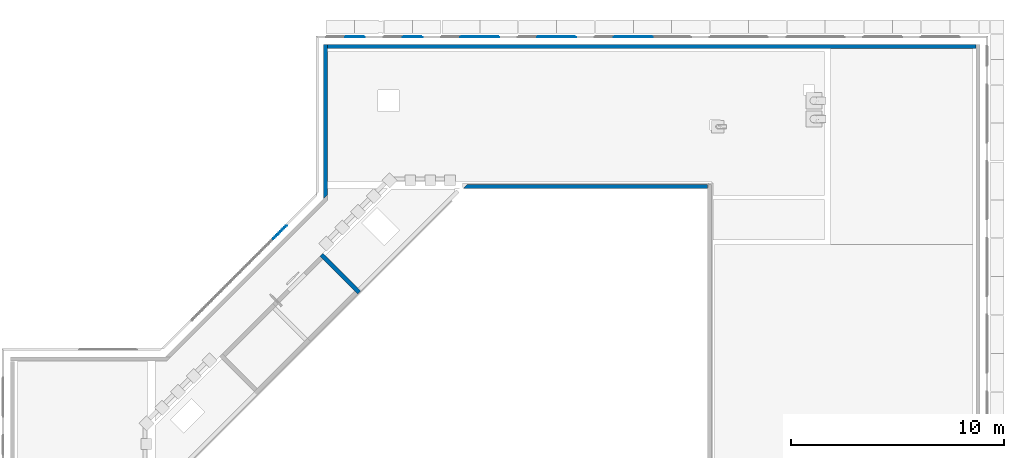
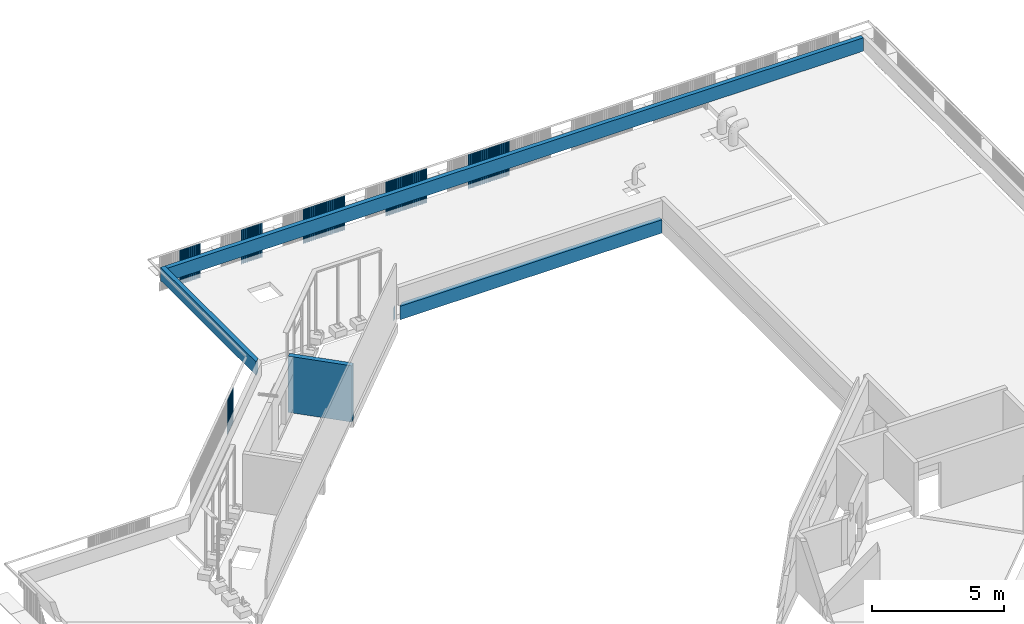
# One storey, part 14 of 37: 13 walls.
"""IFC4X3_ADD2 building model written with IfcOpenShell, lengths in millimetres."""

from ifc_helpers import new_model, si_unit, direction, frame, frame_2d, origin_with_axes, origin_2d_with_axis, place, context, subcontext, project, spatial, polyline, rectangle, outline, extrude, source, transform, mapped, material, type_object, type_shapes, element, save


model = new_model("IFC4X3_ADD2")

# Units and contexts
model_context = context("Model", 3, precision=1e-05, world=origin_with_axes(), true_north=direction((0.0, 1.0)))
body_context = subcontext(model_context, "Body", "Model", "MODEL_VIEW")
ifc_project = project(units=[si_unit("LENGTHUNIT", "METRE", prefix="MILLI"), si_unit("AREAUNIT", "SQUARE_METRE"), si_unit("VOLUMEUNIT", "CUBIC_METRE"), si_unit("PLANEANGLEUNIT", "RADIAN"), si_unit("TIMEUNIT", "SECOND"), si_unit("MASSUNIT", "GRAM")], contexts=[model_context])

# Site, building, storey
site_placement = place(None, origin_with_axes())
site = spatial("IfcSite", under=ifc_project, at=site_placement, Name="Site", CompositionType="ELEMENT")
building_placement = place(site_placement, origin_with_axes())
building = spatial("IfcBuilding", under=site, at=building_placement, Name="IFC Building Story")
storey_placement = place(building_placement, frame((0.0, 0.0, 14400.0), z_axis=(0.0, 0.0, 1.0), x_axis=(1.0, 0.0, 0.0)))
storey = spatial("IfcBuildingStorey", under=building, at=storey_placement, Name="040", Elevation=14400.0)

# Walls
ifc_material_1 = material(Name="BB_Beton_Bestaand")
wall_type_1 = type_object("IfcWallType", Name="BB_Beton_Bestaand 200", PredefinedType="NOTDEFINED", material=ifc_material_1)
wall_1_placement = place(storey_placement, origin_with_axes())
element("IfcWall", 1, at=wall_1_placement, inside=storey, type_object=wall_type_1, Name="Basic Wall:BB_XX_Wand uit beton, 200 mm", ObjectType="Basic Wall:BB_XX_Wand uit beton, 200 mm", PredefinedType="SOLIDWALL", context=body_context, shape_type="SweptSolid", body=[
    extrude(rectangle(XDim=2499.999999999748, YDim=199.9999999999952, at=frame_2d((0.0, 0.0), x_axis=(-0.7071067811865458, 0.7071067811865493))), frame((-29905.83388024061, 34622.2361107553, -200.0), z_axis=(0.0, 0.0, 1.0), x_axis=(1.0, 0.0, 0.0)), (0.0, 0.0, 1.0), 2600.0),
])
wall_type_2 = type_object("IfcWallType", Name="BB_Beton_Bestaand 190", PredefinedType="NOTDEFINED", material=ifc_material_1)
wall_2_placement = place(storey_placement, origin_with_axes())
element("IfcWall", 2, at=wall_2_placement, inside=storey, type_object=wall_type_2, Name="Basic Wall:BB_XX_Wand uit beton, 190 mm", ObjectType="Basic Wall:BB_XX_Wand uit beton, 190 mm", PredefinedType="SOLIDWALL", context=body_context, shape_type="SweptSolid", body=[
    extrude(outline(polyline([(95.0, 3572.824855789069), (95.0, -3477.824855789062), (-95.0, -3667.824855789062), (-95.0, 3572.824855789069), (95.0, 3572.824855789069)])), frame((-30600.0, 41807.17514421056, -200.0), z_axis=(0.0, 0.0, 1.0), x_axis=(1.0, 0.0, 0.0)), (0.0, 0.0, 1.0), 619.999999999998),
])
wall_3_placement = place(storey_placement, origin_with_axes())
element("IfcWall", 3, at=wall_3_placement, inside=storey, type_object=wall_type_2, Name="Basic Wall:BB_XX_Wand uit beton, 190 mm", ObjectType="Basic Wall:BB_XX_Wand uit beton, 190 mm", PredefinedType="SOLIDWALL", context=body_context, shape_type="SweptSolid", body=[
    extrude(rectangle(XDim=30410.0000000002, YDim=189.9999999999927, at=origin_2d_with_axis()), frame((-15299.9999999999, 45285.0, -200.0), z_axis=(0.0, 0.0, 1.0), x_axis=(1.0, 0.0, 0.0)), (0.0, 0.0, 1.0), 619.999999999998),
])
wall_type_3 = type_object("IfcWallType", Name="Basic Wall_BB_XX_Wand uit beton_ 200 mm3", PredefinedType="NOTDEFINED")
shared_shape = source(origin_with_axes(), body_context, "Body", "SweptSolid", [
    extrude(outline(polyline([(-6803.318907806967, -83.5685424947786), (-6803.318907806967, 116.4314575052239), (4656.984130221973, 116.4314575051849), (4474.826842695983, -65.7258300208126), (4474.826842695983, -83.56854249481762), (-6803.318907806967, -83.5685424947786)])), frame((6803.318907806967, -16.43145750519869, 0.0), z_axis=(0.0, 0.0, 1.0), x_axis=(1.0, 0.0, 0.0)), (0.0, 0.0, 1.0), 620.0),
    extrude(outline(polyline([(100.476153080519, 100.0), (-99.52384691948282, -100.0), (-100.4761530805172, -100.0), (99.52384691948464, 100.0), (100.476153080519, 100.0)])), frame((11643.6219035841, 2.046363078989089e-12, 0.0), z_axis=(0.0, 0.0, 1.0), x_axis=(1.0, 0.0, 0.0)), (0.0, 0.0, 1.0), 620.0),
])
type_shapes(wall_type_3, [shared_shape])
wall_4_placement = place(storey_placement, frame((-12695.0040658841, 38704.9959341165, -200.0), z_axis=(0.0, 0.0, 1.0), x_axis=(-1.0, 0.0, 0.0)))
element("IfcWall", 4, at=wall_4_placement, inside=storey, type_object=wall_type_3, material=ifc_material_1, Name="Basic Wall:BB_XX_Wand uit beton, 200 mm", ObjectType="Basic Wall:BB_XX_Wand uit beton, 200 mm", PredefinedType="SOLIDWALL", context=body_context, shape_type="MappedRepresentation", body=[
    mapped(shared_shape, transform((0.0, 0.0, 0.0))),
])
ifc_material_2 = material(Name="BB_Metaal_Aluminium_Puntprofiel")
wall_type_4 = type_object("IfcWallType", Name="BB_Metaal_Aluminium_Puntprofiel 1", PredefinedType="NOTDEFINED", material=ifc_material_2)
wall_5_placement = place(storey_placement, origin_with_axes())
element("IfcWall", 5, at=wall_5_placement, inside=storey, type_object=wall_type_4, Name="BB_07.10_Gevelbekleding_PuntProfiel, 900 mm, vol_GMO:900 x 1600 mm", ObjectType="BB_07.10_Gevelbekleding_PuntProfiel, 900 mm, vol_GMO:900 x 1600 mm", PredefinedType="NOTDEFINED", context=body_context, shape_type="SweptSolid", body=[
    extrude(outline(polyline([(349.0000000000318, -10.06027913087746), (371.0000000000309, -10.06027913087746), (405.0000000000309, 23.93972086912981), (439.0000000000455, -10.06027913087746), (460.9999999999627, -10.06027913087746), (461.4142135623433, -11.06027913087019), (438.5857864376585, -11.06027913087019), (405.0000000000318, 22.52550730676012), (371.4142135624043, -11.06027913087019), (348.5857864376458, -11.06027913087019), (315.0000000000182, 22.52550730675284), (281.4142135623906, -11.06027913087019), (258.5857864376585, -11.06027913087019), (225.0000000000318, 22.52550730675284), (191.4142135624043, -11.06027913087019), (168.5857864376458, -11.06027913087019), (135.0000000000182, 22.52550730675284), (101.4142135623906, -11.06027913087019), (78.58578643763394, -11.06027913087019), (45.00000000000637, 22.52550730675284), (11.4142135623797, -11.06027913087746), (-11.41421356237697, -11.06027913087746), (-45.00000000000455, 22.52550730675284), (-78.58578643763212, -11.06027913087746), (-101.414213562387, -11.06027913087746), (-135.0000000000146, 22.52550730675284), (-168.5857864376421, -11.06027913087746), (-191.4142135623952, -11.06027913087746), (-225.0000000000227, 22.52550730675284), (-258.5857864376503, -11.06027913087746), (-281.4142135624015, -11.06027913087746), (-315.0000000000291, 22.52550730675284), (-348.5857864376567, -11.06027913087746), (-371.4142135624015, -11.06027913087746), (-405.00000000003, 22.52550730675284), (-438.5857864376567, -11.06027913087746), (-461.4142135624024, -11.06027913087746), (-461.0000000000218, -10.06027913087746), (-439.00000000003, -10.06027913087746), (-405.00000000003, 23.93972086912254), (-371.0000000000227, -10.06027913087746), (-349.00000000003, -10.06027913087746), (-315.0000000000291, 23.93972086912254), (-281.0000000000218, -10.06027913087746), (-259.0000000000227, -10.06027913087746), (-225.0000000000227, 23.93972086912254), (-191.0000000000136, -10.06027913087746), (-169.0000000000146, -10.06027913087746), (-135.0000000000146, 23.93972086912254), (-101.0000000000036, -10.06027913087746), (-79.00000000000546, -10.06027913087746), (-45.00000000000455, 23.93972086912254), (-10.99999999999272, -10.06027913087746), (11.00000000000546, -10.06027913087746), (45.00000000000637, 23.93972086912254), (79.0000000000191, -10.06027913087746), (101.0000000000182, -10.06027913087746), (135.0000000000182, 23.93972086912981), (169.0000000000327, -10.06027913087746), (191.0000000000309, -10.06027913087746), (225.0000000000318, 23.93972086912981), (259.0000000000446, -10.06027913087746), (281.0000000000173, -10.06027913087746), (315.0000000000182, 23.93972086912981), (349.0000000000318, -10.06027913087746)])), frame((-29214.99999999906, 45726.06027913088, -960.0), z_axis=(0.0, 0.0, 1.0), x_axis=(1.0, 0.0, 0.0)), (0.0, 0.0, 1.0), 1600.0),
])
wall_6_placement = place(storey_placement, origin_with_axes())
element("IfcWall", 6, at=wall_6_placement, inside=storey, type_object=wall_type_4, Name="BB_07.10_Gevelbekleding_PuntProfiel, 900 mm, vol_GMO:900 x 1600 mm", ObjectType="BB_07.10_Gevelbekleding_PuntProfiel, 900 mm, vol_GMO:900 x 1600 mm", PredefinedType="NOTDEFINED", context=body_context, shape_type="SweptSolid", body=[
    extrude(outline(polyline([(349.0000000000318, -10.06027913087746), (371.0000000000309, -10.06027913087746), (405.0000000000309, 23.93972086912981), (439.0000000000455, -10.06027913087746), (460.9999999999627, -10.06027913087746), (461.4142135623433, -11.06027913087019), (438.5857864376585, -11.06027913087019), (405.0000000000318, 22.52550730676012), (371.4142135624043, -11.06027913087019), (348.5857864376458, -11.06027913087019), (315.0000000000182, 22.52550730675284), (281.4142135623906, -11.06027913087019), (258.5857864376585, -11.06027913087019), (225.0000000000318, 22.52550730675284), (191.4142135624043, -11.06027913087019), (168.5857864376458, -11.06027913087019), (135.0000000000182, 22.52550730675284), (101.4142135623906, -11.06027913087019), (78.58578643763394, -11.06027913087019), (45.00000000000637, 22.52550730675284), (11.4142135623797, -11.06027913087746), (-11.41421356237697, -11.06027913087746), (-45.00000000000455, 22.52550730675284), (-78.58578643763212, -11.06027913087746), (-101.414213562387, -11.06027913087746), (-135.0000000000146, 22.52550730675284), (-168.5857864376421, -11.06027913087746), (-191.4142135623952, -11.06027913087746), (-225.0000000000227, 22.52550730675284), (-258.5857864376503, -11.06027913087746), (-281.4142135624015, -11.06027913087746), (-315.0000000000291, 22.52550730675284), (-348.5857864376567, -11.06027913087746), (-371.4142135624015, -11.06027913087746), (-405.00000000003, 22.52550730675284), (-438.5857864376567, -11.06027913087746), (-461.4142135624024, -11.06027913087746), (-461.0000000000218, -10.06027913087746), (-439.00000000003, -10.06027913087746), (-405.00000000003, 23.93972086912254), (-371.0000000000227, -10.06027913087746), (-349.00000000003, -10.06027913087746), (-315.0000000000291, 23.93972086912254), (-281.0000000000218, -10.06027913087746), (-259.0000000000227, -10.06027913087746), (-225.0000000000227, 23.93972086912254), (-191.0000000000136, -10.06027913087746), (-169.0000000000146, -10.06027913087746), (-135.0000000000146, 23.93972086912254), (-101.0000000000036, -10.06027913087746), (-79.00000000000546, -10.06027913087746), (-45.00000000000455, 23.93972086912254), (-10.99999999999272, -10.06027913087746), (11.00000000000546, -10.06027913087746), (45.00000000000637, 23.93972086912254), (79.0000000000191, -10.06027913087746), (101.0000000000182, -10.06027913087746), (135.0000000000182, 23.93972086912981), (169.0000000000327, -10.06027913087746), (191.0000000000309, -10.06027913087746), (225.0000000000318, 23.93972086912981), (259.0000000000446, -10.06027913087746), (281.0000000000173, -10.06027913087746), (315.0000000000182, 23.93972086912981), (349.0000000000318, -10.06027913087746)])), frame((-26514.99999999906, 45726.06027913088, -960.0), z_axis=(0.0, 0.0, 1.0), x_axis=(1.0, 0.0, 0.0)), (0.0, 0.0, 1.0), 1600.0),
])
wall_7_placement = place(storey_placement, origin_with_axes())
element("IfcWall", 7, at=wall_7_placement, inside=storey, type_object=wall_type_4, Name="BB_07.10_Gevelbekleding_PuntProfiel, 900 mm, vol_GMO:900 x 1600 mm", ObjectType="BB_07.10_Gevelbekleding_PuntProfiel, 900 mm, vol_GMO:900 x 1600 mm", PredefinedType="NOTDEFINED", context=body_context, shape_type="SweptSolid", body=[
    extrude(outline(polyline([(349.0000000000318, -10.06027913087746), (371.0000000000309, -10.06027913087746), (405.0000000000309, 23.93972086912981), (439.0000000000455, -10.06027913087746), (460.9999999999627, -10.06027913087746), (461.4142135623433, -11.06027913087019), (438.5857864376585, -11.06027913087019), (405.0000000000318, 22.52550730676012), (371.4142135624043, -11.06027913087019), (348.5857864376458, -11.06027913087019), (315.0000000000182, 22.52550730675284), (281.4142135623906, -11.06027913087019), (258.5857864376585, -11.06027913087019), (225.0000000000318, 22.52550730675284), (191.4142135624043, -11.06027913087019), (168.5857864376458, -11.06027913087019), (135.0000000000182, 22.52550730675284), (101.4142135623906, -11.06027913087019), (78.58578643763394, -11.06027913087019), (45.00000000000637, 22.52550730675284), (11.4142135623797, -11.06027913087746), (-11.41421356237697, -11.06027913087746), (-45.00000000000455, 22.52550730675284), (-78.58578643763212, -11.06027913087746), (-101.414213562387, -11.06027913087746), (-135.0000000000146, 22.52550730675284), (-168.5857864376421, -11.06027913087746), (-191.4142135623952, -11.06027913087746), (-225.0000000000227, 22.52550730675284), (-258.5857864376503, -11.06027913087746), (-281.4142135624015, -11.06027913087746), (-315.0000000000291, 22.52550730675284), (-348.5857864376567, -11.06027913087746), (-371.4142135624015, -11.06027913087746), (-405.00000000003, 22.52550730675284), (-438.5857864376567, -11.06027913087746), (-461.4142135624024, -11.06027913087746), (-461.0000000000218, -10.06027913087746), (-439.00000000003, -10.06027913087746), (-405.00000000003, 23.93972086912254), (-371.0000000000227, -10.06027913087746), (-349.00000000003, -10.06027913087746), (-315.0000000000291, 23.93972086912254), (-281.0000000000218, -10.06027913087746), (-259.0000000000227, -10.06027913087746), (-225.0000000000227, 23.93972086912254), (-191.0000000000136, -10.06027913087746), (-169.0000000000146, -10.06027913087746), (-135.0000000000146, 23.93972086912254), (-101.0000000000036, -10.06027913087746), (-79.00000000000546, -10.06027913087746), (-45.00000000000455, 23.93972086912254), (-10.99999999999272, -10.06027913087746), (11.00000000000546, -10.06027913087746), (45.00000000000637, 23.93972086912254), (79.0000000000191, -10.06027913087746), (101.0000000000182, -10.06027913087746), (135.0000000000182, 23.93972086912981), (169.0000000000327, -10.06027913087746), (191.0000000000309, -10.06027913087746), (225.0000000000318, 23.93972086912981), (259.0000000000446, -10.06027913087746), (281.0000000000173, -10.06027913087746), (315.0000000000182, 23.93972086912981), (349.0000000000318, -10.06027913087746)])), frame((-22914.99999999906, 45726.06027913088, -960.0), z_axis=(0.0, 0.0, 1.0), x_axis=(1.0, 0.0, 0.0)), (0.0, 0.0, 1.0), 1600.0),
])
wall_8_placement = place(storey_placement, origin_with_axes())
element("IfcWall", 8, at=wall_8_placement, inside=storey, type_object=wall_type_4, Name="BB_07.10_Gevelbekleding_PuntProfiel, 900 mm, vol_GMO:900 x 1600 mm", ObjectType="BB_07.10_Gevelbekleding_PuntProfiel, 900 mm, vol_GMO:900 x 1600 mm", PredefinedType="NOTDEFINED", context=body_context, shape_type="SweptSolid", body=[
    extrude(outline(polyline([(349.0000000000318, -10.06027913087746), (371.0000000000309, -10.06027913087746), (405.0000000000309, 23.93972086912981), (439.0000000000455, -10.06027913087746), (460.9999999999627, -10.06027913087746), (461.4142135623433, -11.06027913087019), (438.5857864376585, -11.06027913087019), (405.0000000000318, 22.52550730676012), (371.4142135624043, -11.06027913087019), (348.5857864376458, -11.06027913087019), (315.0000000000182, 22.52550730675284), (281.4142135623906, -11.06027913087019), (258.5857864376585, -11.06027913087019), (225.0000000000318, 22.52550730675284), (191.4142135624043, -11.06027913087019), (168.5857864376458, -11.06027913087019), (135.0000000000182, 22.52550730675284), (101.4142135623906, -11.06027913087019), (78.58578643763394, -11.06027913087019), (45.00000000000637, 22.52550730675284), (11.4142135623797, -11.06027913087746), (-11.41421356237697, -11.06027913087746), (-45.00000000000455, 22.52550730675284), (-78.58578643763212, -11.06027913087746), (-101.414213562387, -11.06027913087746), (-135.0000000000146, 22.52550730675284), (-168.5857864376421, -11.06027913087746), (-191.4142135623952, -11.06027913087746), (-225.0000000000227, 22.52550730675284), (-258.5857864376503, -11.06027913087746), (-281.4142135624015, -11.06027913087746), (-315.0000000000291, 22.52550730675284), (-348.5857864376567, -11.06027913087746), (-371.4142135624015, -11.06027913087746), (-405.00000000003, 22.52550730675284), (-438.5857864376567, -11.06027913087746), (-461.4142135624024, -11.06027913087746), (-461.0000000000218, -10.06027913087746), (-439.00000000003, -10.06027913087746), (-405.00000000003, 23.93972086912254), (-371.0000000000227, -10.06027913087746), (-349.00000000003, -10.06027913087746), (-315.0000000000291, 23.93972086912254), (-281.0000000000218, -10.06027913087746), (-259.0000000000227, -10.06027913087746), (-225.0000000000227, 23.93972086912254), (-191.0000000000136, -10.06027913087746), (-169.0000000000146, -10.06027913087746), (-135.0000000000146, 23.93972086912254), (-101.0000000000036, -10.06027913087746), (-79.00000000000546, -10.06027913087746), (-45.00000000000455, 23.93972086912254), (-10.99999999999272, -10.06027913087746), (11.00000000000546, -10.06027913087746), (45.00000000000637, 23.93972086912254), (79.0000000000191, -10.06027913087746), (101.0000000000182, -10.06027913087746), (135.0000000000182, 23.93972086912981), (169.0000000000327, -10.06027913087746), (191.0000000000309, -10.06027913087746), (225.0000000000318, 23.93972086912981), (259.0000000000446, -10.06027913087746), (281.0000000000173, -10.06027913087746), (315.0000000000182, 23.93972086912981), (349.0000000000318, -10.06027913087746)])), frame((-23814.99999999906, 45726.06027913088, -960.0), z_axis=(0.0, 0.0, 1.0), x_axis=(1.0, 0.0, 0.0)), (0.0, 0.0, 1.0), 1600.0),
])
wall_9_placement = place(storey_placement, origin_with_axes())
element("IfcWall", 9, at=wall_9_placement, inside=storey, type_object=wall_type_4, Name="BB_07.10_Gevelbekleding_PuntProfiel, 900 mm, vol_GMO:900 x 1600 mm", ObjectType="BB_07.10_Gevelbekleding_PuntProfiel, 900 mm, vol_GMO:900 x 1600 mm", PredefinedType="NOTDEFINED", context=body_context, shape_type="SweptSolid", body=[
    extrude(outline(polyline([(349.0000000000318, -10.06027913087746), (371.0000000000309, -10.06027913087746), (405.0000000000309, 23.93972086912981), (439.0000000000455, -10.06027913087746), (460.9999999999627, -10.06027913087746), (461.4142135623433, -11.06027913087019), (438.5857864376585, -11.06027913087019), (405.0000000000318, 22.52550730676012), (371.4142135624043, -11.06027913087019), (348.5857864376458, -11.06027913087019), (315.0000000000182, 22.52550730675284), (281.4142135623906, -11.06027913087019), (258.5857864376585, -11.06027913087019), (225.0000000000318, 22.52550730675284), (191.4142135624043, -11.06027913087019), (168.5857864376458, -11.06027913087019), (135.0000000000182, 22.52550730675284), (101.4142135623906, -11.06027913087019), (78.58578643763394, -11.06027913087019), (45.00000000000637, 22.52550730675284), (11.4142135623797, -11.06027913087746), (-11.41421356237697, -11.06027913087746), (-45.00000000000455, 22.52550730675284), (-78.58578643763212, -11.06027913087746), (-101.414213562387, -11.06027913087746), (-135.0000000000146, 22.52550730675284), (-168.5857864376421, -11.06027913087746), (-191.4142135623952, -11.06027913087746), (-225.0000000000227, 22.52550730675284), (-258.5857864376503, -11.06027913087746), (-281.4142135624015, -11.06027913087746), (-315.0000000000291, 22.52550730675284), (-348.5857864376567, -11.06027913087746), (-371.4142135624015, -11.06027913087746), (-405.00000000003, 22.52550730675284), (-438.5857864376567, -11.06027913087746), (-461.4142135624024, -11.06027913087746), (-461.0000000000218, -10.06027913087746), (-439.00000000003, -10.06027913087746), (-405.00000000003, 23.93972086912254), (-371.0000000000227, -10.06027913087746), (-349.00000000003, -10.06027913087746), (-315.0000000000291, 23.93972086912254), (-281.0000000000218, -10.06027913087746), (-259.0000000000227, -10.06027913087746), (-225.0000000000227, 23.93972086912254), (-191.0000000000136, -10.06027913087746), (-169.0000000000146, -10.06027913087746), (-135.0000000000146, 23.93972086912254), (-101.0000000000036, -10.06027913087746), (-79.00000000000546, -10.06027913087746), (-45.00000000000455, 23.93972086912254), (-10.99999999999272, -10.06027913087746), (11.00000000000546, -10.06027913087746), (45.00000000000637, 23.93972086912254), (79.0000000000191, -10.06027913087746), (101.0000000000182, -10.06027913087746), (135.0000000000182, 23.93972086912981), (169.0000000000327, -10.06027913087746), (191.0000000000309, -10.06027913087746), (225.0000000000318, 23.93972086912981), (259.0000000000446, -10.06027913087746), (281.0000000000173, -10.06027913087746), (315.0000000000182, 23.93972086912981), (349.0000000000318, -10.06027913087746)])), frame((-20214.99999999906, 45726.06027913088, -960.0), z_axis=(0.0, 0.0, 1.0), x_axis=(1.0, 0.0, 0.0)), (0.0, 0.0, 1.0), 1600.0),
])
wall_10_placement = place(storey_placement, origin_with_axes())
element("IfcWall", 10, at=wall_10_placement, inside=storey, type_object=wall_type_4, Name="BB_07.10_Gevelbekleding_PuntProfiel, 900 mm, vol_GMO:900 x 1600 mm", ObjectType="BB_07.10_Gevelbekleding_PuntProfiel, 900 mm, vol_GMO:900 x 1600 mm", PredefinedType="NOTDEFINED", context=body_context, shape_type="SweptSolid", body=[
    extrude(outline(polyline([(349.0000000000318, -10.06027913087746), (371.0000000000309, -10.06027913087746), (405.0000000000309, 23.93972086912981), (439.0000000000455, -10.06027913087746), (460.9999999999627, -10.06027913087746), (461.4142135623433, -11.06027913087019), (438.5857864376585, -11.06027913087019), (405.0000000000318, 22.52550730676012), (371.4142135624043, -11.06027913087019), (348.5857864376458, -11.06027913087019), (315.0000000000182, 22.52550730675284), (281.4142135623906, -11.06027913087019), (258.5857864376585, -11.06027913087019), (225.0000000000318, 22.52550730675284), (191.4142135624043, -11.06027913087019), (168.5857864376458, -11.06027913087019), (135.0000000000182, 22.52550730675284), (101.4142135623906, -11.06027913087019), (78.58578643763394, -11.06027913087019), (45.00000000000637, 22.52550730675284), (11.4142135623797, -11.06027913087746), (-11.41421356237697, -11.06027913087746), (-45.00000000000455, 22.52550730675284), (-78.58578643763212, -11.06027913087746), (-101.414213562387, -11.06027913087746), (-135.0000000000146, 22.52550730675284), (-168.5857864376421, -11.06027913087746), (-191.4142135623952, -11.06027913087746), (-225.0000000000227, 22.52550730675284), (-258.5857864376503, -11.06027913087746), (-281.4142135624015, -11.06027913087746), (-315.0000000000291, 22.52550730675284), (-348.5857864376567, -11.06027913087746), (-371.4142135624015, -11.06027913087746), (-405.00000000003, 22.52550730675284), (-438.5857864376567, -11.06027913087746), (-461.4142135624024, -11.06027913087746), (-461.0000000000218, -10.06027913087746), (-439.00000000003, -10.06027913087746), (-405.00000000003, 23.93972086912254), (-371.0000000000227, -10.06027913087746), (-349.00000000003, -10.06027913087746), (-315.0000000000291, 23.93972086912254), (-281.0000000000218, -10.06027913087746), (-259.0000000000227, -10.06027913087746), (-225.0000000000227, 23.93972086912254), (-191.0000000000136, -10.06027913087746), (-169.0000000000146, -10.06027913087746), (-135.0000000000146, 23.93972086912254), (-101.0000000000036, -10.06027913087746), (-79.00000000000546, -10.06027913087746), (-45.00000000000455, 23.93972086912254), (-10.99999999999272, -10.06027913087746), (11.00000000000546, -10.06027913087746), (45.00000000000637, 23.93972086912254), (79.0000000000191, -10.06027913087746), (101.0000000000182, -10.06027913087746), (135.0000000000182, 23.93972086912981), (169.0000000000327, -10.06027913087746), (191.0000000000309, -10.06027913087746), (225.0000000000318, 23.93972086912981), (259.0000000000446, -10.06027913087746), (281.0000000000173, -10.06027913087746), (315.0000000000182, 23.93972086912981), (349.0000000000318, -10.06027913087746)])), frame((-19314.99999999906, 45726.06027913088, -960.0), z_axis=(0.0, 0.0, 1.0), x_axis=(1.0, 0.0, 0.0)), (0.0, 0.0, 1.0), 1600.0),
])
wall_11_placement = place(storey_placement, origin_with_axes())
element("IfcWall", 11, at=wall_11_placement, inside=storey, type_object=wall_type_4, Name="BB_07.10_Gevelbekleding_PuntProfiel, 900 mm, vol_GMO:900 x 1600 mm", ObjectType="BB_07.10_Gevelbekleding_PuntProfiel, 900 mm, vol_GMO:900 x 1600 mm", PredefinedType="NOTDEFINED", context=body_context, shape_type="SweptSolid", body=[
    extrude(outline(polyline([(349.0000000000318, -10.06027913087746), (371.0000000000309, -10.06027913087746), (405.0000000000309, 23.93972086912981), (439.0000000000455, -10.06027913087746), (460.9999999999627, -10.06027913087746), (461.4142135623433, -11.06027913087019), (438.5857864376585, -11.06027913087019), (405.0000000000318, 22.52550730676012), (371.4142135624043, -11.06027913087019), (348.5857864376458, -11.06027913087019), (315.0000000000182, 22.52550730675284), (281.4142135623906, -11.06027913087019), (258.5857864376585, -11.06027913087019), (225.0000000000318, 22.52550730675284), (191.4142135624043, -11.06027913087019), (168.5857864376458, -11.06027913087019), (135.0000000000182, 22.52550730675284), (101.4142135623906, -11.06027913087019), (78.58578643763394, -11.06027913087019), (45.00000000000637, 22.52550730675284), (11.4142135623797, -11.06027913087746), (-11.41421356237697, -11.06027913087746), (-45.00000000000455, 22.52550730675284), (-78.58578643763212, -11.06027913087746), (-101.414213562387, -11.06027913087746), (-135.0000000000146, 22.52550730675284), (-168.5857864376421, -11.06027913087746), (-191.4142135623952, -11.06027913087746), (-225.0000000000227, 22.52550730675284), (-258.5857864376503, -11.06027913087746), (-281.4142135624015, -11.06027913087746), (-315.0000000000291, 22.52550730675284), (-348.5857864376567, -11.06027913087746), (-371.4142135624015, -11.06027913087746), (-405.00000000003, 22.52550730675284), (-438.5857864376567, -11.06027913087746), (-461.4142135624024, -11.06027913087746), (-461.0000000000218, -10.06027913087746), (-439.00000000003, -10.06027913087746), (-405.00000000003, 23.93972086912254), (-371.0000000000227, -10.06027913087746), (-349.00000000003, -10.06027913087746), (-315.0000000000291, 23.93972086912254), (-281.0000000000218, -10.06027913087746), (-259.0000000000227, -10.06027913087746), (-225.0000000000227, 23.93972086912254), (-191.0000000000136, -10.06027913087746), (-169.0000000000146, -10.06027913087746), (-135.0000000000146, 23.93972086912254), (-101.0000000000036, -10.06027913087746), (-79.00000000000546, -10.06027913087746), (-45.00000000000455, 23.93972086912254), (-10.99999999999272, -10.06027913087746), (11.00000000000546, -10.06027913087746), (45.00000000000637, 23.93972086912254), (79.0000000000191, -10.06027913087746), (101.0000000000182, -10.06027913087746), (135.0000000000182, 23.93972086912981), (169.0000000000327, -10.06027913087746), (191.0000000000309, -10.06027913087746), (225.0000000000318, 23.93972086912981), (259.0000000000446, -10.06027913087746), (281.0000000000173, -10.06027913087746), (315.0000000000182, 23.93972086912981), (349.0000000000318, -10.06027913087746)])), frame((-15714.99999999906, 45726.06027913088, -960.0), z_axis=(0.0, 0.0, 1.0), x_axis=(1.0, 0.0, 0.0)), (0.0, 0.0, 1.0), 1600.0),
])
wall_12_placement = place(storey_placement, origin_with_axes())
element("IfcWall", 12, at=wall_12_placement, inside=storey, type_object=wall_type_4, Name="BB_07.10_Gevelbekleding_PuntProfiel, 900 mm, vol_GMO:900 x 1600 mm", ObjectType="BB_07.10_Gevelbekleding_PuntProfiel, 900 mm, vol_GMO:900 x 1600 mm", PredefinedType="NOTDEFINED", context=body_context, shape_type="SweptSolid", body=[
    extrude(outline(polyline([(349.0000000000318, -10.06027913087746), (371.0000000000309, -10.06027913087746), (405.0000000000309, 23.93972086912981), (439.0000000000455, -10.06027913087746), (460.9999999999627, -10.06027913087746), (461.4142135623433, -11.06027913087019), (438.5857864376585, -11.06027913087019), (405.0000000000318, 22.52550730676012), (371.4142135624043, -11.06027913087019), (348.5857864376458, -11.06027913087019), (315.0000000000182, 22.52550730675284), (281.4142135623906, -11.06027913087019), (258.5857864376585, -11.06027913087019), (225.0000000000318, 22.52550730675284), (191.4142135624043, -11.06027913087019), (168.5857864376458, -11.06027913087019), (135.0000000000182, 22.52550730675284), (101.4142135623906, -11.06027913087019), (78.58578643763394, -11.06027913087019), (45.00000000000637, 22.52550730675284), (11.4142135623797, -11.06027913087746), (-11.41421356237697, -11.06027913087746), (-45.00000000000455, 22.52550730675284), (-78.58578643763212, -11.06027913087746), (-101.414213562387, -11.06027913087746), (-135.0000000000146, 22.52550730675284), (-168.5857864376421, -11.06027913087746), (-191.4142135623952, -11.06027913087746), (-225.0000000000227, 22.52550730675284), (-258.5857864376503, -11.06027913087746), (-281.4142135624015, -11.06027913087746), (-315.0000000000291, 22.52550730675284), (-348.5857864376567, -11.06027913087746), (-371.4142135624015, -11.06027913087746), (-405.00000000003, 22.52550730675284), (-438.5857864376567, -11.06027913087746), (-461.4142135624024, -11.06027913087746), (-461.0000000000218, -10.06027913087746), (-439.00000000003, -10.06027913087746), (-405.00000000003, 23.93972086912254), (-371.0000000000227, -10.06027913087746), (-349.00000000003, -10.06027913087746), (-315.0000000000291, 23.93972086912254), (-281.0000000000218, -10.06027913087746), (-259.0000000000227, -10.06027913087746), (-225.0000000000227, 23.93972086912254), (-191.0000000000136, -10.06027913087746), (-169.0000000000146, -10.06027913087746), (-135.0000000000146, 23.93972086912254), (-101.0000000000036, -10.06027913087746), (-79.00000000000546, -10.06027913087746), (-45.00000000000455, 23.93972086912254), (-10.99999999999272, -10.06027913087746), (11.00000000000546, -10.06027913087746), (45.00000000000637, 23.93972086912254), (79.0000000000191, -10.06027913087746), (101.0000000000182, -10.06027913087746), (135.0000000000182, 23.93972086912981), (169.0000000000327, -10.06027913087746), (191.0000000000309, -10.06027913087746), (225.0000000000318, 23.93972086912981), (259.0000000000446, -10.06027913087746), (281.0000000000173, -10.06027913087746), (315.0000000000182, 23.93972086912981), (349.0000000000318, -10.06027913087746)])), frame((-16614.99999999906, 45726.06027913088, -960.0), z_axis=(0.0, 0.0, 1.0), x_axis=(1.0, 0.0, 0.0)), (0.0, 0.0, 1.0), 1600.0),
])
wall_type_5 = type_object("IfcWallType", Name="BB_Metaal_Aluminium_Puntprofiel 63.6396", PredefinedType="NOTDEFINED", material=ifc_material_2)
wall_13_placement = place(storey_placement, origin_with_axes())
element("IfcWall", 13, at=wall_13_placement, inside=storey, type_object=wall_type_5, Name="BB_07.10_Gevelbekleding_PuntProfiel, 900 mm, vol_GMO:900 x 1600 mm", ObjectType="BB_07.10_Gevelbekleding_PuntProfiel, 900 mm, vol_GMO:900 x 1600 mm", PredefinedType="NOTDEFINED", context=body_context, shape_type="SweptSolid", body=[
    extrude(outline(polyline([(-255.2229242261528, -269.4503074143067), (-239.6665750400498, -253.8939582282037), (-239.6665750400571, -205.8106971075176), (-191.5833139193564, -205.8106971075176), (-176.0269647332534, -190.2543479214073), (-176.0269647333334, -142.171086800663), (-127.9437036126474, -142.1710868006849), (-112.3873544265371, -126.6147376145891), (-112.3873544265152, -78.53147649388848), (-64.30409330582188, -78.5314764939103), (-48.74774411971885, -62.97512730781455), (-48.74774411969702, -14.89186618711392), (-0.6644829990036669, -14.89186618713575), (14.89186618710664, 0.6644829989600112), (14.89186618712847, 48.74774411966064), (62.97512730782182, 48.74774411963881), (78.53147649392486, 64.30409330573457), (78.53147649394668, 112.3873544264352), (126.61473761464, 112.3873544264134), (142.1710868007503, 127.9437036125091), (142.1710868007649, 176.0269647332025), (190.2543479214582, 176.0269647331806), (205.8106971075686, 191.5833139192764), (205.8106971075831, 239.666575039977), (253.8939582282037, 239.6665750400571), (269.4503074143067, 255.2229242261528), (269.4503074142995, 303.3061853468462), (317.5335685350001, 303.3061853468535), (333.0899177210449, 318.8625345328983), (334.0899177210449, 318.4483209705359), (317.9477820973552, 302.3061853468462), (270.4503074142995, 302.3061853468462), (270.4503074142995, 254.8087106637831), (254.3081717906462, 238.6665750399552), (206.8106971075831, 238.666575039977), (206.8106971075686, 191.169100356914), (190.6685614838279, 175.0269647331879), (143.1710868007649, 175.0269647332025), (143.1710868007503, 127.5294900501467), (127.0289511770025, 111.3873544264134), (79.53147649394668, 111.3873544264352), (79.53147649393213, 63.88987974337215), (63.38934087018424, 47.74774411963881), (15.89186618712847, 47.74774411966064), (15.89186618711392, 0.2502694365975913), (-0.2502694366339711, -15.89186618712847), (-47.74774411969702, -15.89186618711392), (-47.74774411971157, -63.38934087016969), (-63.88987974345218, -79.53147649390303), (-111.3873544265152, -79.53147649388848), (-111.3873544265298, -127.0289511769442), (-127.5294900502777, -143.1710868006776), (-175.0269647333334, -143.171086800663), (-175.0269647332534, -190.6685614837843), (-191.1691003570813, -206.8106971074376), (-238.6665750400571, -206.8106971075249), (-238.6665750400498, -254.3081717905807), (-254.8087106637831, -270.4503074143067), (-302.3061853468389, -270.4503074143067), (-302.3061853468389, -317.9477820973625), (-318.4483209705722, -334.0899177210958), (-318.8625345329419, -333.0899177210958), (-303.3061853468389, -317.5335685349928), (-303.3061853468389, -269.4503074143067), (-255.2229242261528, -269.4503074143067)])), frame((-32742.77816950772, 36559.76205562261, -960.0), z_axis=(0.0, 0.0, 1.0), x_axis=(1.0, 0.0, 0.0)), (0.0, 0.0, 1.0), 1600.0),
])

save(model, "model.ifc")
